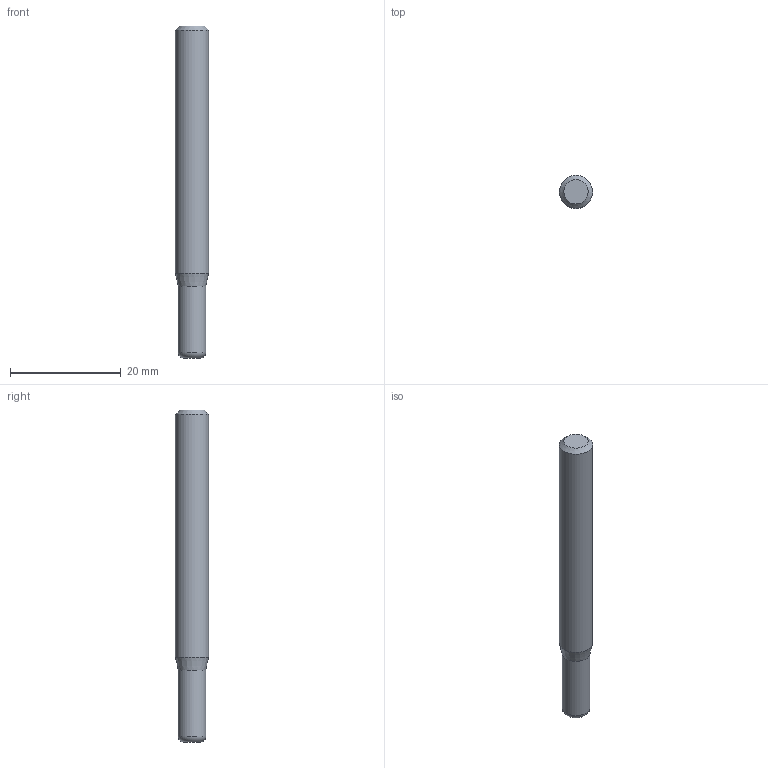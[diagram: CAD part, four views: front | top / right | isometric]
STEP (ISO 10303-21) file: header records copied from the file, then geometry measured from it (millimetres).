
FILE_DESCRIPTION((''),'2;1');
FILE_NAME('C:\Users\nsx150\AppData\Local\Temp\Mastercam 2021\0KY4AY0TVG\TEMP.step','2021-10-21T14:41:53',(''),(''),'STEP Write','Mastercam 2021 ... CNC Software, Inc.','');
FILE_SCHEMA(('AUTOMOTIVE_DESIGN'));
Length unit declared in the file: millimetre
Products named in the file (1): None
Bounding box: 6 x 6 x 60 mm (x, y, z)
Volume: 1565.1 mm3; surface area: 1157.7 mm2
Topology: 2 solids, 2 shells, 9 faces, 12 edges, 7 vertices
Faces by surface type: plane 4, cylinder 2, cone 2, torus 1
Full cylindrical faces by diameter (mm): 5 x1, 6 x1
Entity records: 211 total; most frequent: DIRECTION 36, CARTESIAN_POINT 25, AXIS2_PLACEMENT_3D 18, ORIENTED_EDGE 14, EDGE_LOOP 14, STYLED_ITEM 12, ADVANCED_FACE 9, FACE_BOUND 8
